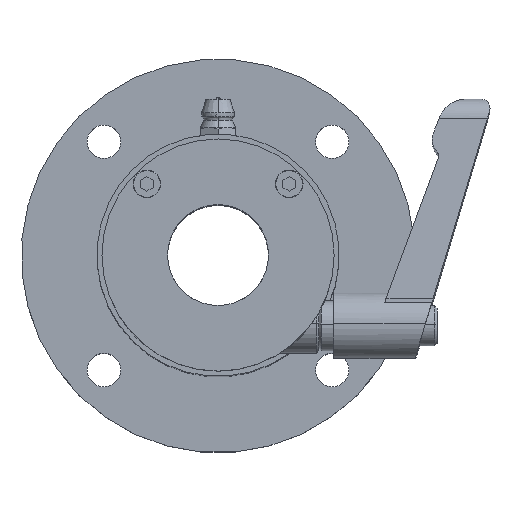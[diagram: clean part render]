
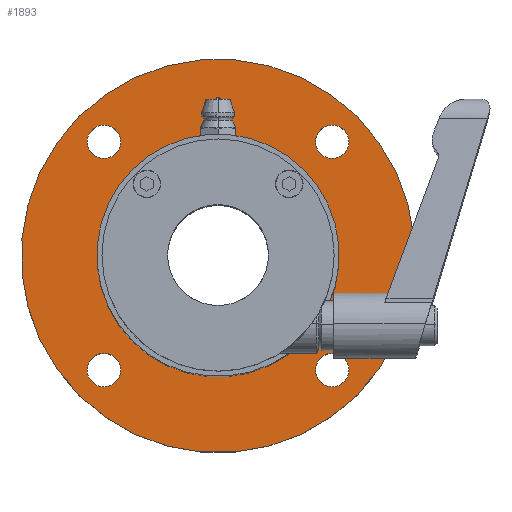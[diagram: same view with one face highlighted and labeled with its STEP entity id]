
A CAD part, top view. The second image highlights one B-rep face of the part: STEP entity #1893.
In plain terms, the highlighted planar face has unit normal (0, 0, 1).
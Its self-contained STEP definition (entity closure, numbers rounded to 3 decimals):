
#182 = CIRCLE ( 'NONE', #5285, 3.324 ) ;
#203 = VERTEX_POINT ( 'NONE', #4635 ) ;
#220 = VERTEX_POINT ( 'NONE', #1438 ) ;
#296 = CARTESIAN_POINT ( 'NONE',  ( 11.124, -27.746, 71.309 ) ) ;
#364 = CIRCLE ( 'NONE', #10350, 3.324 ) ;
#375 = FACE_BOUND ( 'NONE', #2864, .T. ) ;
#414 = DIRECTION ( 'NONE',  ( 0., 0., -1. ) ) ;
#627 = CARTESIAN_POINT ( 'NONE',  ( 16.074, 22.459, 71.309 ) ) ;
#638 = CARTESIAN_POINT ( 'NONE',  ( -34.131, -27.746, 71.309 ) ) ;
#810 = CARTESIAN_POINT ( 'NONE',  ( -31.781, 19.859, 71.309 ) ) ;
#873 = AXIS2_PLACEMENT_3D ( 'NONE', #10412, #10245, #8761 ) ;
#990 = CIRCLE ( 'NONE', #2005, 3.324 ) ;
#1118 = DIRECTION ( 'NONE',  ( -0.707, -0.707, 0. ) ) ;
#1433 = DIRECTION ( 'NONE',  ( 0.707, 0.707, 0. ) ) ;
#1438 = CARTESIAN_POINT ( 'NONE',  ( 13.474, 15.159, 71.309 ) ) ;
#1559 = ORIENTED_EDGE ( 'NONE', *, *, #7559, .T. ) ;
#1570 = CIRCLE ( 'NONE', #5708, 3.323 ) ;
#1612 = AXIS2_PLACEMENT_3D ( 'NONE', #1806, #7433, #5904 ) ;
#1656 = CIRCLE ( 'NONE', #4416, 24. ) ;
#1660 = DIRECTION ( 'NONE',  ( 0.707, -0.707, 0. ) ) ;
#1806 = CARTESIAN_POINT ( 'NONE',  ( 11.124, 17.509, 71.309 ) ) ;
#1837 = ORIENTED_EDGE ( 'NONE', *, *, #2287, .T. ) ;
#1893 = ADVANCED_FACE ( 'NONE', ( #9584, #9629, #2949, #375, #4647, #1997 ), #3634, .T. ) ;
#1959 = VERTEX_POINT ( 'NONE', #4002 ) ;
#1997 = FACE_BOUND ( 'NONE', #2182, .T. ) ;
#2005 = AXIS2_PLACEMENT_3D ( 'NONE', #7058, #3658, #4556 ) ;
#2079 = CARTESIAN_POINT ( 'NONE',  ( -36.481, -25.396, 71.309 ) ) ;
#2168 = CIRCLE ( 'NONE', #5107, 3.323 ) ;
#2182 = EDGE_LOOP ( 'NONE', ( #7006, #5885 ) ) ;
#2287 = EDGE_CURVE ( 'NONE', #7086, #7412, #990, .T. ) ;
#2301 = CIRCLE ( 'NONE', #8361, 39. ) ;
#2332 = EDGE_CURVE ( 'NONE', #9460, #6484, #3209, .T. ) ;
#2337 = ORIENTED_EDGE ( 'NONE', *, *, #5834, .F. ) ;
#2743 = DIRECTION ( 'NONE',  ( -0.707, -0.707, 0. ) ) ;
#2820 = DIRECTION ( 'NONE',  ( 0.707, 0.707, 0. ) ) ;
#2864 = EDGE_LOOP ( 'NONE', ( #1837, #1559 ) ) ;
#2876 = DIRECTION ( 'NONE',  ( 0.707, 0.707, 0. ) ) ;
#2949 = FACE_BOUND ( 'NONE', #7356, .T. ) ;
#3209 = CIRCLE ( 'NONE', #4591, 39. ) ;
#3535 = EDGE_CURVE ( 'NONE', #8472, #8580, #7916, .T. ) ;
#3542 = DIRECTION ( 'NONE',  ( 0.707, -0.707, 0. ) ) ;
#3634 = PLANE ( 'NONE',  #9841 ) ;
#3658 = DIRECTION ( 'NONE',  ( 0., 0., -1. ) ) ;
#3760 = CARTESIAN_POINT ( 'NONE',  ( -11.504, -5.119, 71.309 ) ) ;
#3761 = CIRCLE ( 'NONE', #5299, 3.324 ) ;
#3800 = EDGE_CURVE ( 'NONE', #220, #5908, #182, .T. ) ;
#3867 = CARTESIAN_POINT ( 'NONE',  ( -11.504, -5.119, 71.309 ) ) ;
#3892 = DIRECTION ( 'NONE',  ( 0., 0., -1. ) ) ;
#4002 = CARTESIAN_POINT ( 'NONE',  ( -31.781, -30.096, 71.309 ) ) ;
#4025 = CARTESIAN_POINT ( 'NONE',  ( -39.081, -32.696, 71.309 ) ) ;
#4164 = CARTESIAN_POINT ( 'NONE',  ( 11.124, 17.509, 71.309 ) ) ;
#4362 = DIRECTION ( 'NONE',  ( 0., 0., -1. ) ) ;
#4373 = ORIENTED_EDGE ( 'NONE', *, *, #9968, .T. ) ;
#4416 = AXIS2_PLACEMENT_3D ( 'NONE', #7988, #9728, #1433 ) ;
#4556 = DIRECTION ( 'NONE',  ( 0.707, 0.707, 0. ) ) ;
#4591 = AXIS2_PLACEMENT_3D ( 'NONE', #3867, #7154, #8905 ) ;
#4635 = CARTESIAN_POINT ( 'NONE',  ( 13.474, -25.396, 71.309 ) ) ;
#4647 = FACE_BOUND ( 'NONE', #5580, .T. ) ;
#4738 = CARTESIAN_POINT ( 'NONE',  ( -28.474, -22.089, 71.309 ) ) ;
#4994 = VERTEX_POINT ( 'NONE', #2079 ) ;
#5009 = EDGE_CURVE ( 'NONE', #203, #5431, #364, .T. ) ;
#5032 = EDGE_LOOP ( 'NONE', ( #4373, #5210 ) ) ;
#5107 = AXIS2_PLACEMENT_3D ( 'NONE', #5563, #8883, #6429 ) ;
#5149 = ORIENTED_EDGE ( 'NONE', *, *, #3800, .T. ) ;
#5210 = ORIENTED_EDGE ( 'NONE', *, *, #5009, .T. ) ;
#5263 = CARTESIAN_POINT ( 'NONE',  ( -34.131, 17.509, 71.309 ) ) ;
#5285 = AXIS2_PLACEMENT_3D ( 'NONE', #4164, #4362, #3542 ) ;
#5299 = AXIS2_PLACEMENT_3D ( 'NONE', #10132, #8449, #2743 ) ;
#5414 = DIRECTION ( 'NONE',  ( 0., 0., -1. ) ) ;
#5431 = VERTEX_POINT ( 'NONE', #7194 ) ;
#5502 = ORIENTED_EDGE ( 'NONE', *, *, #9026, .T. ) ;
#5563 = CARTESIAN_POINT ( 'NONE',  ( -34.131, -27.746, 71.309 ) ) ;
#5580 = EDGE_LOOP ( 'NONE', ( #5149, #9834 ) ) ;
#5708 = AXIS2_PLACEMENT_3D ( 'NONE', #638, #3892, #10028 ) ;
#5834 = EDGE_CURVE ( 'NONE', #6484, #9460, #2301, .T. ) ;
#5885 = ORIENTED_EDGE ( 'NONE', *, *, #3535, .T. ) ;
#5904 = DIRECTION ( 'NONE',  ( 0.707, -0.707, 0. ) ) ;
#5908 = VERTEX_POINT ( 'NONE', #6735 ) ;
#5925 = EDGE_CURVE ( 'NONE', #5908, #220, #7312, .T. ) ;
#6017 = AXIS2_PLACEMENT_3D ( 'NONE', #5263, #414, #2876 ) ;
#6429 = DIRECTION ( 'NONE',  ( -0.707, 0.707, 0. ) ) ;
#6484 = VERTEX_POINT ( 'NONE', #627 ) ;
#6548 = CIRCLE ( 'NONE', #6017, 3.324 ) ;
#6590 = DIRECTION ( 'NONE',  ( 0., 0., 1. ) ) ;
#6735 = CARTESIAN_POINT ( 'NONE',  ( 8.774, 19.859, 71.309 ) ) ;
#7006 = ORIENTED_EDGE ( 'NONE', *, *, #9099, .T. ) ;
#7058 = CARTESIAN_POINT ( 'NONE',  ( -34.131, 17.509, 71.309 ) ) ;
#7059 = DIRECTION ( 'NONE',  ( 0., 0., -1. ) ) ;
#7086 = VERTEX_POINT ( 'NONE', #810 ) ;
#7154 = DIRECTION ( 'NONE',  ( 0., 0., -1. ) ) ;
#7158 = ORIENTED_EDGE ( 'NONE', *, *, #2332, .F. ) ;
#7194 = CARTESIAN_POINT ( 'NONE',  ( 8.774, -30.096, 71.309 ) ) ;
#7312 = CIRCLE ( 'NONE', #1612, 3.324 ) ;
#7356 = EDGE_LOOP ( 'NONE', ( #5502, #7715 ) ) ;
#7412 = VERTEX_POINT ( 'NONE', #7611 ) ;
#7433 = DIRECTION ( 'NONE',  ( 0., 0., -1. ) ) ;
#7559 = EDGE_CURVE ( 'NONE', #7412, #7086, #6548, .T. ) ;
#7611 = CARTESIAN_POINT ( 'NONE',  ( -36.481, 15.159, 71.309 ) ) ;
#7715 = ORIENTED_EDGE ( 'NONE', *, *, #8169, .T. ) ;
#7916 = CIRCLE ( 'NONE', #873, 24. ) ;
#7988 = CARTESIAN_POINT ( 'NONE',  ( -11.504, -5.119, 71.309 ) ) ;
#8169 = EDGE_CURVE ( 'NONE', #1959, #4994, #1570, .T. ) ;
#8361 = AXIS2_PLACEMENT_3D ( 'NONE', #3760, #7059, #2820 ) ;
#8379 = CARTESIAN_POINT ( 'NONE',  ( 5.467, 11.852, 71.309 ) ) ;
#8435 = EDGE_LOOP ( 'NONE', ( #2337, #7158 ) ) ;
#8449 = DIRECTION ( 'NONE',  ( 0., 0., -1. ) ) ;
#8472 = VERTEX_POINT ( 'NONE', #4738 ) ;
#8580 = VERTEX_POINT ( 'NONE', #8379 ) ;
#8761 = DIRECTION ( 'NONE',  ( 0.707, 0.707, 0. ) ) ;
#8883 = DIRECTION ( 'NONE',  ( 0., 0., -1. ) ) ;
#8905 = DIRECTION ( 'NONE',  ( 0.707, 0.707, 0. ) ) ;
#9026 = EDGE_CURVE ( 'NONE', #4994, #1959, #2168, .T. ) ;
#9099 = EDGE_CURVE ( 'NONE', #8580, #8472, #1656, .T. ) ;
#9460 = VERTEX_POINT ( 'NONE', #4025 ) ;
#9584 = FACE_OUTER_BOUND ( 'NONE', #8435, .T. ) ;
#9629 = FACE_BOUND ( 'NONE', #5032, .T. ) ;
#9728 = DIRECTION ( 'NONE',  ( 0., 0., -1. ) ) ;
#9799 = CARTESIAN_POINT ( 'NONE',  ( 10.77, 17.155, 71.309 ) ) ;
#9834 = ORIENTED_EDGE ( 'NONE', *, *, #5925, .T. ) ;
#9841 = AXIS2_PLACEMENT_3D ( 'NONE', #9799, #6590, #1660 ) ;
#9968 = EDGE_CURVE ( 'NONE', #5431, #203, #3761, .T. ) ;
#10028 = DIRECTION ( 'NONE',  ( -0.707, 0.707, 0. ) ) ;
#10132 = CARTESIAN_POINT ( 'NONE',  ( 11.124, -27.746, 71.309 ) ) ;
#10245 = DIRECTION ( 'NONE',  ( 0., 0., -1. ) ) ;
#10350 = AXIS2_PLACEMENT_3D ( 'NONE', #296, #5414, #1118 ) ;
#10412 = CARTESIAN_POINT ( 'NONE',  ( -11.504, -5.119, 71.309 ) ) ;
